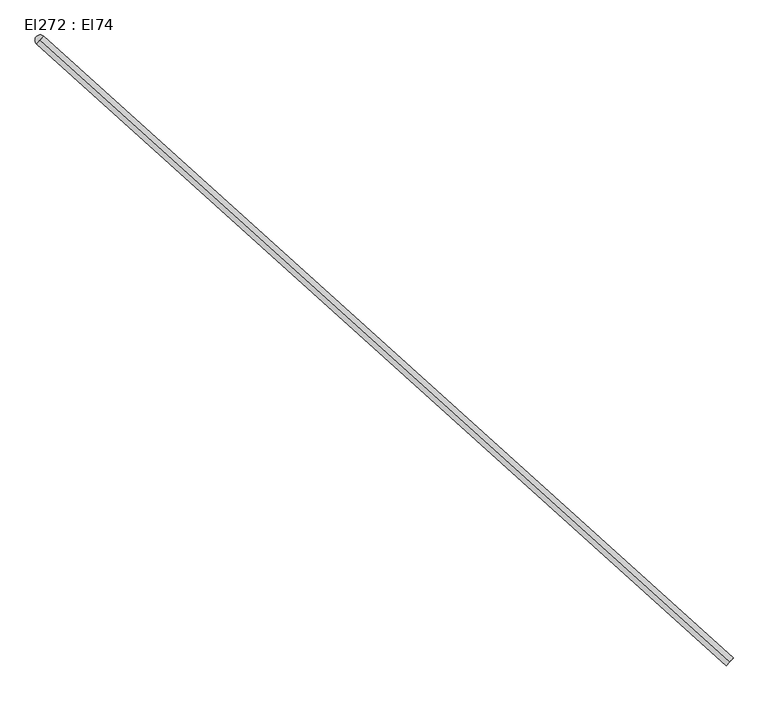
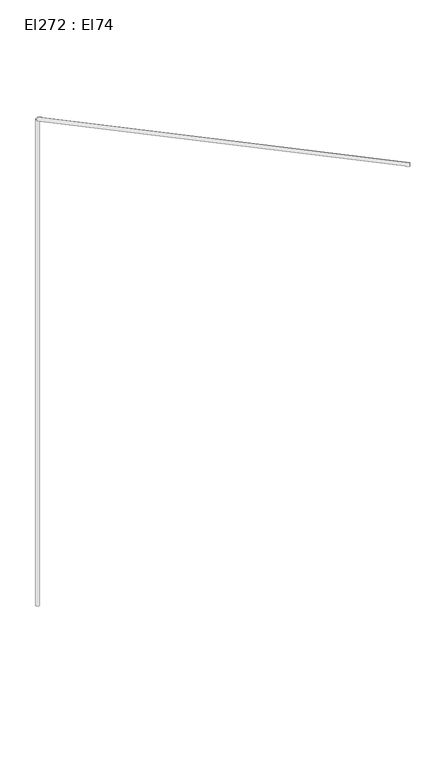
"""IFC4 building model written with IfcOpenShell, lengths in millimetres: cable carrier segment geometry, El272 : El74."""

from ifc_helpers import new_model, si_unit, point, frame, frame_2d, origin, place, context, project, spatial, circle_curve, trimmed, segment, composite_curve, outline, extrude, source, transform, mapped, element, save


def el272_el74_cc929678(model_context):
    return source(origin(), model_context, "Body", "SweptSolid", [
        extrude(outline(composite_curve([segment(trimmed(circle_curve(frame_2d((0.0, -9.5)), 9.5), [point((0.0, -19.0))], [point((0.0, 0.0))], False, "CARTESIAN"), True, "CONTINUOUS"), segment(trimmed(circle_curve(frame_2d((0.0, -9.5)), 9.5), [point((0.0, 0.0))], [point((0.0, -19.0))], False, "CARTESIAN"), True, "CONTINUOUS")], self_intersect=False)), frame((18570.4062024, 10139.74998, 4459.5), z_axis=(-0.7423638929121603, 0.6699969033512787, 0.0), x_axis=(-0.6699969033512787, -0.7423638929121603, 0.0)), (0.0, 0.0, 1.0), 1681.02),
        extrude(outline(composite_curve([segment(trimmed(circle_curve(frame_2d((17322.4776511, 11266.0281745)), 9.5), [point((17312.9776511, 11266.0281745))], [point((17331.9776511, 11266.0281745))], False, "CARTESIAN"), True, "CONTINUOUS"), segment(trimmed(circle_curve(frame_2d((17322.4776511, 11266.0281745)), 9.5), [point((17331.9776511, 11266.0281745))], [point((17312.9776511, 11266.0281745))], False, "CARTESIAN"), True, "CONTINUOUS")], self_intersect=False)), frame((0.0, 0.0, 1830.0), z_axis=(0.0, 0.0, 1.0), x_axis=(1.0, 0.0, 0.0)), (0.0, 0.0, 1.0), 2620.0),
    ])


if __name__ == "__main__":
    model = new_model("IFC4")
    model_context = context("Model", 3, world=origin())
    ifc_project = project(units=[si_unit("LENGTHUNIT", "METRE", prefix="MILLI")], contexts=[model_context])
    site = spatial("IfcSite", under=ifc_project)
    building = spatial("IfcBuilding", under=site)
    placement = place(None, origin())
    el272_el74_shape = el272_el74_cc929678(model_context)
    element("IfcCableCarrierSegment", 1, ObjectType="El272 : El74", at=placement, inside=building, context=model_context, shape_type="MappedRepresentation", body=[
        mapped(el272_el74_shape, transform((0.0, 0.0, 0.0), x_axis=(1.0, 0.0, 0.0), y_axis=(0.0, 1.0, 0.0), z_axis=(0.0, 0.0, 1.0))),
    ])
    save(model, "model.ifc")
